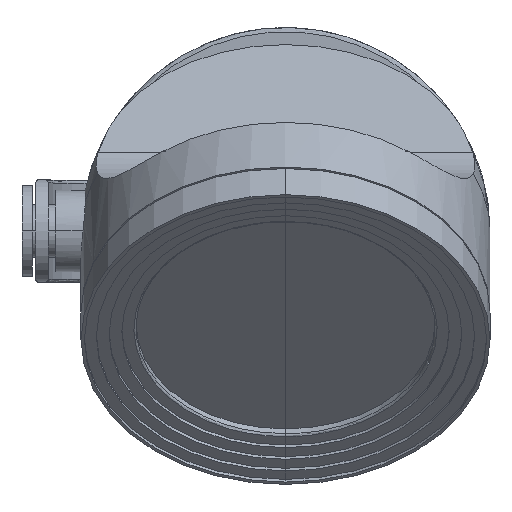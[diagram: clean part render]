
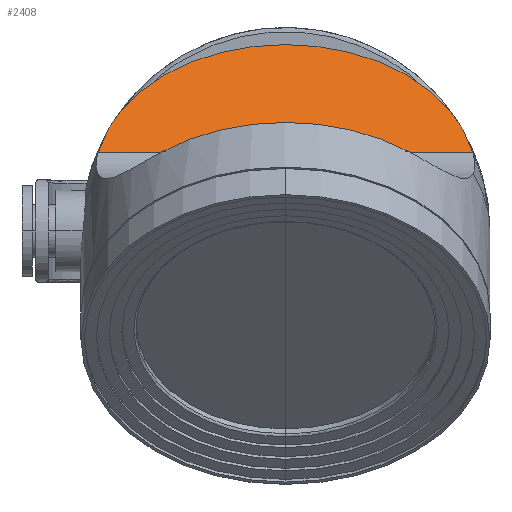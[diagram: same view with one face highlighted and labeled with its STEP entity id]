
A CAD part, top view. The second image highlights one B-rep face of the part: STEP entity #2408.
In plain terms, the highlighted planar face has unit normal (0, 0.707, 0.707).
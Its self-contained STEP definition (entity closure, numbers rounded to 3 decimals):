
#333=FACE_OUTER_BOUND('',#498,.T.);
#498=EDGE_LOOP('',(#1968,#1969));
#646=LINE('',#5556,#790);
#790=VECTOR('',#3189,304.8);
#910=CIRCLE('',#2648,46.764);
#1092=VERTEX_POINT('',#5554);
#1093=VERTEX_POINT('',#5555);
#1393=EDGE_CURVE('',#1092,#1093,#646,.T.);
#1394=EDGE_CURVE('',#1093,#1092,#910,.T.);
#1968=ORIENTED_EDGE('',*,*,#1393,.F.);
#1969=ORIENTED_EDGE('',*,*,#1394,.F.);
#2271=PLANE('',#2647);
#2408=ADVANCED_FACE('',(#333),#2271,.F.);
#2647=AXIS2_PLACEMENT_3D('',#5553,#3187,#3188);
#2648=AXIS2_PLACEMENT_3D('',#5557,#3190,#3191);
#3187=DIRECTION('center_axis',(0.,-0.707,-0.707));
#3188=DIRECTION('ref_axis',(-1.,0.,0.));
#3189=DIRECTION('',(-1.,0.,0.));
#3190=DIRECTION('center_axis',(0.,-0.707,-0.707));
#3191=DIRECTION('ref_axis',(0.,0.707,-0.707));
#5553=CARTESIAN_POINT('Origin',(66.139,19.273,167.073));
#5554=CARTESIAN_POINT('',(45.786,19.273,167.073));
#5555=CARTESIAN_POINT('',(-45.786,19.273,167.073));
#5556=CARTESIAN_POINT('',(45.786,19.273,167.073));
#5557=CARTESIAN_POINT('Origin',(0.,12.548,173.798));
